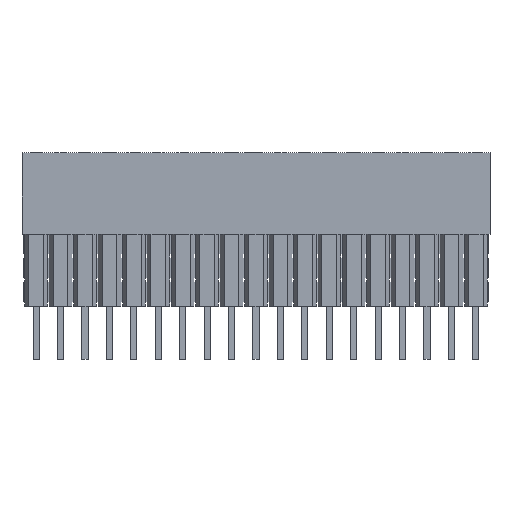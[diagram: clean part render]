
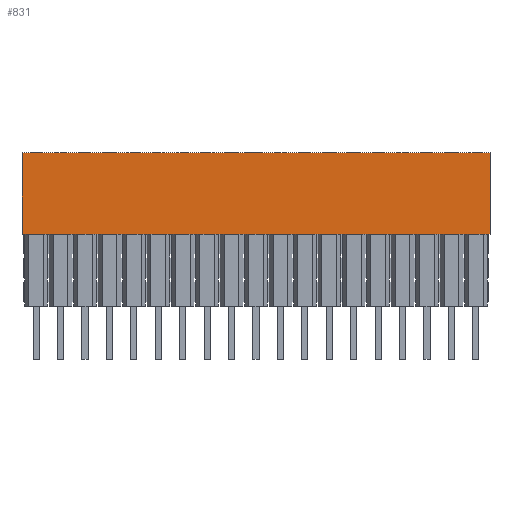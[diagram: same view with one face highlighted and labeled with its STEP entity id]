
A CAD part, top view. The second image highlights one B-rep face of the part: STEP entity #831.
In plain terms, the highlighted planar face has unit normal (0, 0, 1).
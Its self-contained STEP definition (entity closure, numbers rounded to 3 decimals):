
#831=ADVANCED_FACE('',(#2629),#1733,.T.);
#1733=PLANE('',#19820);
#2629=FACE_OUTER_BOUND('',#3643,.T.);
#3643=EDGE_LOOP('',(#7835,#7836,#7837,#7838));
#7835=ORIENTED_EDGE('',*,*,#12974,.T.);
#7836=ORIENTED_EDGE('',*,*,#12975,.F.);
#7837=ORIENTED_EDGE('',*,*,#12976,.T.);
#7838=ORIENTED_EDGE('',*,*,#12972,.T.);
#10563=VERTEX_POINT('',#28357);
#10564=VERTEX_POINT('',#28359);
#10565=VERTEX_POINT('',#28363);
#10566=VERTEX_POINT('',#28365);
#12972=EDGE_CURVE('',#10564,#10563,#15692,.T.);
#12974=EDGE_CURVE('',#10563,#10565,#15694,.T.);
#12975=EDGE_CURVE('',#10566,#10565,#15695,.T.);
#12976=EDGE_CURVE('',#10566,#10564,#15696,.T.);
#15692=LINE('',#28358,#18412);
#15694=LINE('',#28362,#18414);
#15695=LINE('',#28364,#18415);
#15696=LINE('',#28366,#18416);
#18412=VECTOR('',#23291,1.);
#18414=VECTOR('',#23295,1.);
#18415=VECTOR('',#23296,1.);
#18416=VECTOR('',#23297,1.);
#19820=AXIS2_PLACEMENT_3D('',#28367,#23298,#23299);
#23291=DIRECTION('',(1.,0.,0.));
#23295=DIRECTION('',(0.,1.,0.));
#23296=DIRECTION('',(1.,0.,0.));
#23297=DIRECTION('',(0.,-1.,0.));
#23298=DIRECTION('',(0.,0.,1.));
#23299=DIRECTION('',(-1.,0.,0.));
#28357=CARTESIAN_POINT('',(-4.68,0.,0.02));
#28358=CARTESIAN_POINT('',(-38.1,0.,0.02));
#28359=CARTESIAN_POINT('',(-53.34,0.,0.02));
#28362=CARTESIAN_POINT('',(-4.68,0.,0.02));
#28363=CARTESIAN_POINT('',(-4.68,8.5,0.02));
#28364=CARTESIAN_POINT('',(-38.1,8.5,0.02));
#28365=CARTESIAN_POINT('',(-53.34,8.5,0.02));
#28366=CARTESIAN_POINT('',(-53.34,0.,0.02));
#28367=CARTESIAN_POINT('',(-38.1,0.,0.02));
